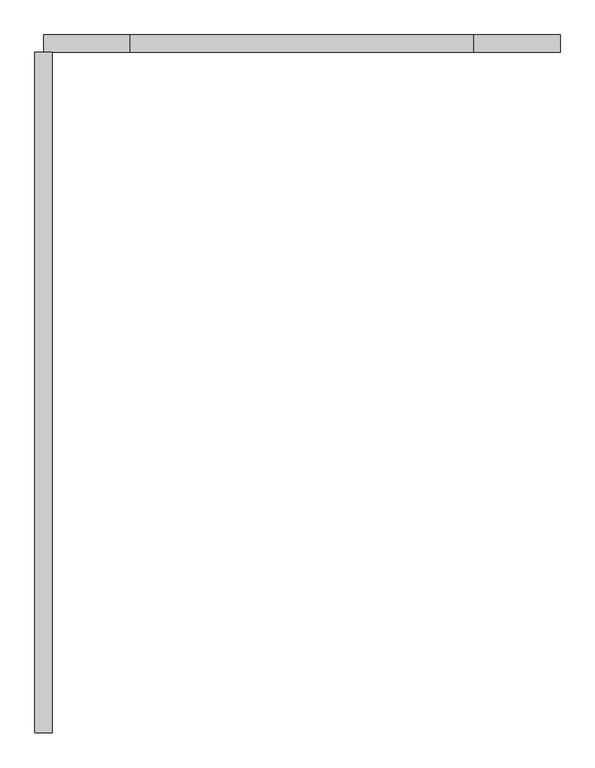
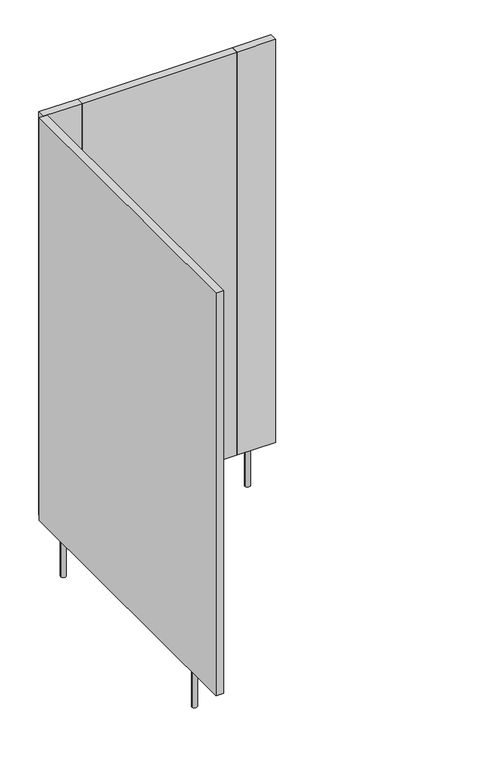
"""IFC4 building model written with IfcOpenShell, lengths in millimetres: proxy geometry, 厕所隔断 1 3D : 中间或靠墙(落地)."""

from ifc_helpers import new_model, si_unit, point, frame, frame_2d, origin, origin_with_axes, place, context, project, spatial, polyline, circle_curve, trimmed, segment, composite_curve, outline, extrude, source, transform, mapped, element, save


def specialty_equipment_fa7288dd(model_context):
    return source(origin(), model_context, "Body", "SweptSolid", [
        extrude(outline(polyline([(-790.0, 1285.0), (-760.0, 1285.0), (-760.0, 100.0), (-790.0, 100.0), (-790.0, 1285.0)])), frame((0.0, 0.0, 150.0), z_axis=(0.0, 0.0, 1.0), x_axis=(1.0, 0.0, 0.0)), (0.0, 0.0, 1.0), 1650.0),
        extrude(outline(polyline([(-625.0, 1315.0), (-625.0, 1285.0), (-775.0, 1285.0), (-775.0, 1315.0), (-625.0, 1315.0)])), frame((0.0, 0.0, 150.0), z_axis=(0.0, 0.0, 1.0), x_axis=(1.0, 0.0, 0.0)), (0.0, 0.0, 1.0), 1650.0),
        extrude(outline(polyline([(-25.0, 1285.0), (-25.0, 1315.0), (125.0, 1315.0), (125.0, 1285.0), (-25.0, 1285.0)])), frame((0.0, 0.0, 150.0), z_axis=(0.0, 0.0, 1.0), x_axis=(1.0, 0.0, 0.0)), (0.0, 0.0, 1.0), 1650.0),
        extrude(outline(composite_curve([segment(trimmed(circle_curve(frame_2d((-676.8349557, 1300.0)), 10.0), [point((-686.8349557, 1300.0))], [point((-666.8349557, 1300.0))], False, "CARTESIAN"), True, "CONTINUOUS"), segment(trimmed(circle_curve(frame_2d((-676.8349557, 1300.0)), 10.0), [point((-666.8349557, 1300.0))], [point((-686.8349557, 1300.0))], False, "CARTESIAN"), True, "CONTINUOUS")], self_intersect=False)), origin_with_axes(), (0.0, 0.0, 1.0), 150.0),
        extrude(outline(composite_curve([segment(trimmed(circle_curve(frame_2d((25.0, 1300.108943)), 10.0), [point((15.0, 1300.108943))], [point((35.0, 1300.108943))], False, "CARTESIAN"), True, "CONTINUOUS"), segment(trimmed(circle_curve(frame_2d((25.0, 1300.108943)), 10.0), [point((35.0, 1300.108943))], [point((15.0, 1300.108943))], False, "CARTESIAN"), True, "CONTINUOUS")], self_intersect=False)), origin_with_axes(), (0.0, 0.0, 1.0), 150.0),
        extrude(outline(composite_curve([segment(trimmed(circle_curve(frame_2d((-775.0, 270.108943)), 10.0), [point((-785.0, 270.108943))], [point((-765.0, 270.108943))], False, "CARTESIAN"), True, "CONTINUOUS"), segment(trimmed(circle_curve(frame_2d((-775.0, 270.108943)), 10.0), [point((-765.0, 270.108943))], [point((-785.0, 270.108943))], False, "CARTESIAN"), True, "CONTINUOUS")], self_intersect=False)), origin_with_axes(), (0.0, 0.0, 1.0), 150.0),
        extrude(outline(composite_curve([segment(trimmed(circle_curve(frame_2d((-775.0, 1150.108943)), 10.0), [point((-785.0, 1150.108943))], [point((-765.0, 1150.108943))], False, "CARTESIAN"), True, "CONTINUOUS"), segment(trimmed(circle_curve(frame_2d((-775.0, 1150.108943)), 10.0), [point((-765.0, 1150.108943))], [point((-785.0, 1150.108943))], False, "CARTESIAN"), True, "CONTINUOUS")], self_intersect=False)), origin_with_axes(), (0.0, 0.0, 1.0), 150.0),
        extrude(outline(polyline([(-25.0, 1285.0), (-625.0, 1285.0), (-625.0, 1315.0), (-25.0, 1315.0), (-25.0, 1285.0)])), frame((0.0, 0.0, 150.0), z_axis=(0.0, 0.0, 1.0), x_axis=(1.0, 0.0, 0.0)), (0.0, 0.0, 1.0), 1650.0),
    ])


if __name__ == "__main__":
    model = new_model("IFC4")
    model_context = context("Model", 3, world=origin())
    ifc_project = project(units=[si_unit("LENGTHUNIT", "METRE", prefix="MILLI")], contexts=[model_context])
    site = spatial("IfcSite", under=ifc_project)
    building = spatial("IfcBuilding", under=site)
    placement = place(None, origin())
    specialty_equipment_shape = specialty_equipment_fa7288dd(model_context)
    element("IfcBuildingElementProxy", 1, Name="厕所隔断 1 3D : 中间或靠墙(落地)", ObjectType="厕所隔断 1 3D : 中间或靠墙(落地)", at=placement, inside=building, context=model_context, shape_type="MappedRepresentation", body=[
        mapped(specialty_equipment_shape, transform((0.0, 0.0, 0.0), x_axis=(1.0, 0.0, 0.0), y_axis=(0.0, 1.0, 0.0), z_axis=(0.0, 0.0, 1.0))),
    ])
    save(model, "model.ifc")
